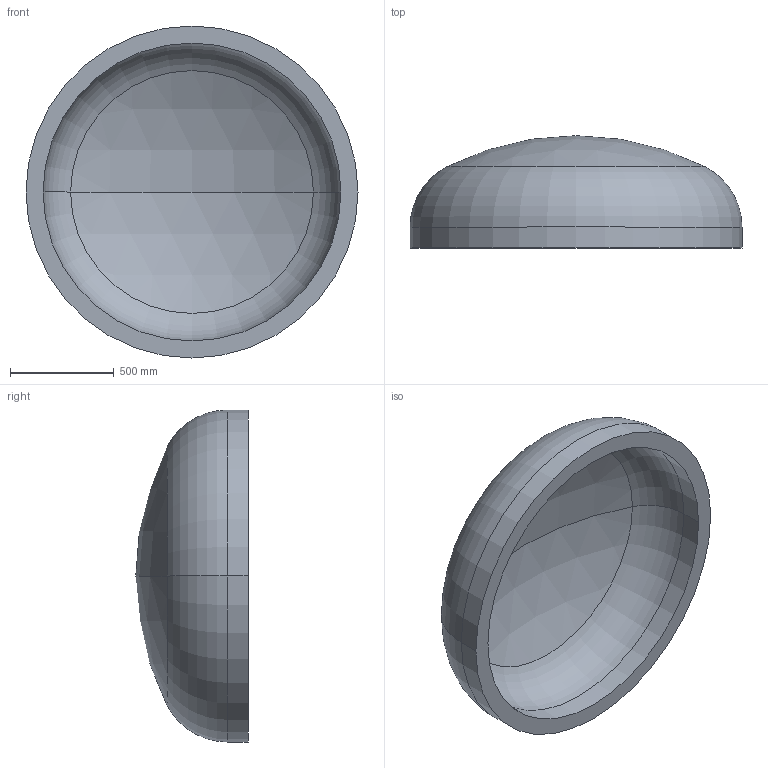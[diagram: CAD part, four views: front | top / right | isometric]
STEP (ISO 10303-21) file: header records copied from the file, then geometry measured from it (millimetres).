
FILE_DESCRIPTION (( 'STEP AP203' ), '1' );
FILE_NAME ('DIN 28013 Korbbogenform_-_Boden DIN 28013 - 1600 x 100 - I - s=82.step', '2016-07-01T11:25:58', ( '' ), ( '' ), 'SwSTEP 2.0', 'SolidWorks 2013', '' );
FILE_SCHEMA (( 'CONFIG_CONTROL_DESIGN' ));
Length unit declared in the file: millimetre
Products named in the file (1): DIN 28013 Korbbogenform_-_Boden DIN 28013 - 1600 x 100 - I - s=82
Bounding box: 1600 x 541.4 x 1600 mm (x, y, z)
Volume: 252660434.3 mm3; surface area: 6567583.6 mm2
Topology: 1 solids, 1 shells, 13 faces, 24 edges, 14 vertices
Faces by surface type: torus 4, cylinder 4, sphere 4, plane 1
Entity records: 407 total; most frequent: DIRECTION 72, CARTESIAN_POINT 52, ORIENTED_EDGE 48, AXIS2_PLACEMENT_3D 34, EDGE_CURVE 24, CIRCLE 20, EDGE_LOOP 14, VERTEX_POINT 14
